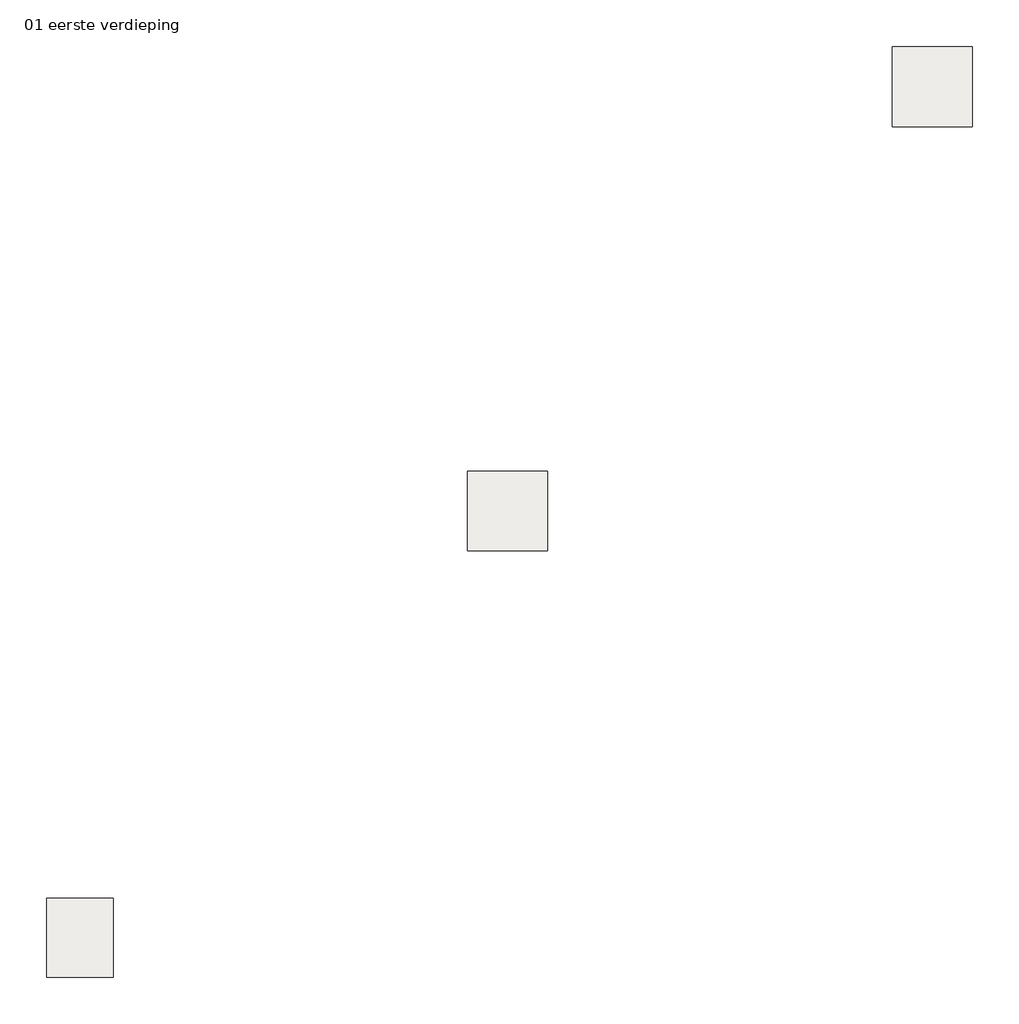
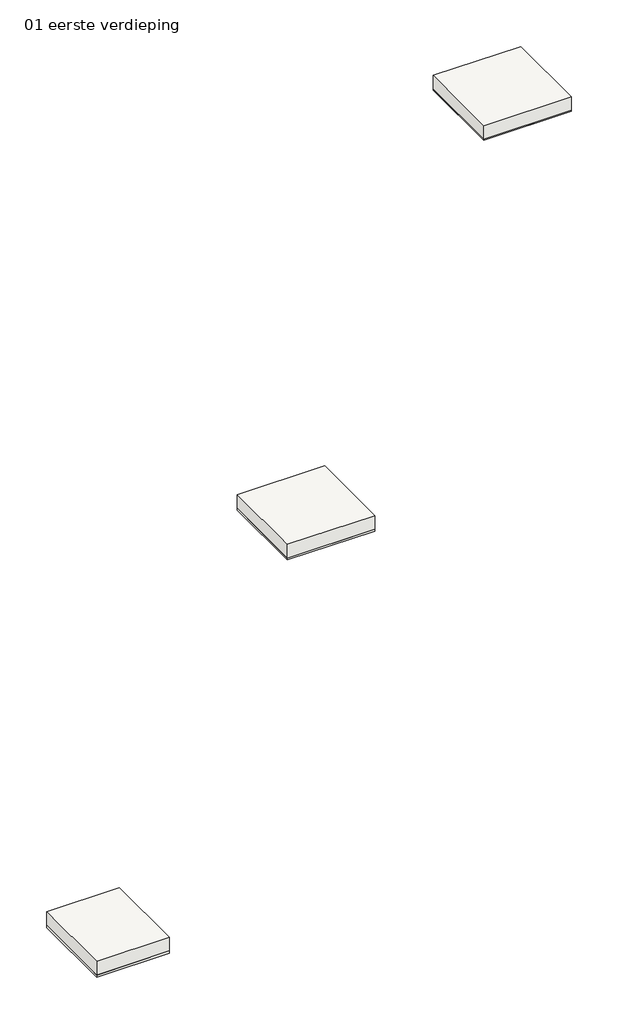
# One storey: 3 coverings, 3 slabs.
"""IFC4 building model written with IfcOpenShell, lengths in millimetres."""

from ifc_helpers import new_model, si_unit, frame, origin, place, context, project, spatial, polyline, outline, extrude, element, save

model = new_model("IFC4")

# Units and contexts
model_context = context("Model", 3, world=origin())
ifc_project = project(units=[si_unit("LENGTHUNIT", "METRE", prefix="MILLI")], contexts=[model_context])

# Site, building, storey
site = spatial("IfcSite", under=ifc_project)
building = spatial("IfcBuilding", under=site)
storey = spatial("IfcBuildingStorey", under=building, Name="01 eerste verdieping", Elevation=1200.0)

# Coverings
placement = place(None, origin())
element("IfcCovering", 1, ObjectType="NLRS_45_CEI_Heraklith A2  afbouwpaneel 15x1200x600mm", at=placement, inside=storey, context=model_context, shape_type="SweptSolid", body=[
    extrude(outline(polyline([(13927.9220614, 14442.9220614), (12727.9220614, 14442.9220614), (12727.9220614, 15642.9220614), (13927.9220614, 15642.9220614), (13927.9220614, 14442.9220614)])), frame((0.0, 0.0, 1185.0), z_axis=(0.0, 0.0, 1.0), x_axis=(1.0, 0.0, 0.0)), (0.0, 0.0, 1.0), 15.0),
])
element("IfcCovering", 2, ObjectType="NLRS_45_CEI_Heraklith A2  afbouwpaneel 25x1200x600mm", at=placement, inside=storey, context=model_context, shape_type="SweptSolid", body=[
    extrude(outline(polyline([(7558.9610307, 8083.9610307), (6358.9610307, 8083.9610307), (6358.9610307, 9278.9610307), (7558.9610307, 9278.9610307), (7558.9610307, 8083.9610307)])), frame((0.0, 0.0, 1175.0), z_axis=(0.0, 0.0, 1.0), x_axis=(1.0, 0.0, 0.0)), (0.0, 0.0, 1.0), 25.0),
])
element("IfcCovering", 3, ObjectType="NLRS_45_CEI_Heraklith A2  afbouwpaneel 35x1000x600mm", at=placement, inside=storey, context=model_context, shape_type="SweptSolid", body=[
    extrude(outline(polyline([(1042.142118, 1687.0754727), (42.142118, 1687.0754727), (42.142118, 2877.0754727), (1042.142118, 2877.0754727), (1042.142118, 1687.0754727)])), frame((0.0, 0.0, 1200.0), z_axis=(0.0, 0.0, 1.0), x_axis=(1.0, 0.0, 0.0)), (0.0, 0.0, 1.0), 35.0),
])

# Slabs
element("IfcSlab", 4, ObjectType="Generic 200mm", at=placement, inside=storey, context=model_context, shape_type="SweptSolid", body=[
    extrude(outline(polyline([(13927.9220614, 15642.9220614), (13927.9220614, 14442.9220614), (12727.9220614, 14442.9220614), (12727.9220614, 15642.9220614), (13927.9220614, 15642.9220614)])), frame((0.0, 0.0, 1200.0), z_axis=(0.0, 0.0, 1.0), x_axis=(1.0, 0.0, 0.0)), (0.0, 0.0, 1.0), 200.0),
])
element("IfcSlab", 5, ObjectType="Generic 200mm", at=placement, inside=storey, context=model_context, shape_type="SweptSolid", body=[
    extrude(outline(polyline([(7558.9610307, 9278.9610307), (7558.9610307, 8083.9610307), (6358.9610307, 8083.9610307), (6358.9610307, 9278.9610307), (7558.9610307, 9278.9610307)])), frame((0.0, 0.0, 1200.0), z_axis=(0.0, 0.0, 1.0), x_axis=(1.0, 0.0, 0.0)), (0.0, 0.0, 1.0), 200.0),
])
element("IfcSlab", 6, ObjectType="Generic 200mm", at=placement, inside=storey, context=model_context, shape_type="SweptSolid", body=[
    extrude(outline(polyline([(1042.142118, 2877.0754727), (1042.142118, 1687.0754727), (42.142118, 1687.0754727), (42.142118, 2877.0754727), (1042.142118, 2877.0754727)])), frame((0.0, 0.0, 1235.0), z_axis=(0.0, 0.0, 1.0), x_axis=(1.0, 0.0, 0.0)), (0.0, 0.0, 1.0), 200.0),
])

save(model, "model.ifc")
